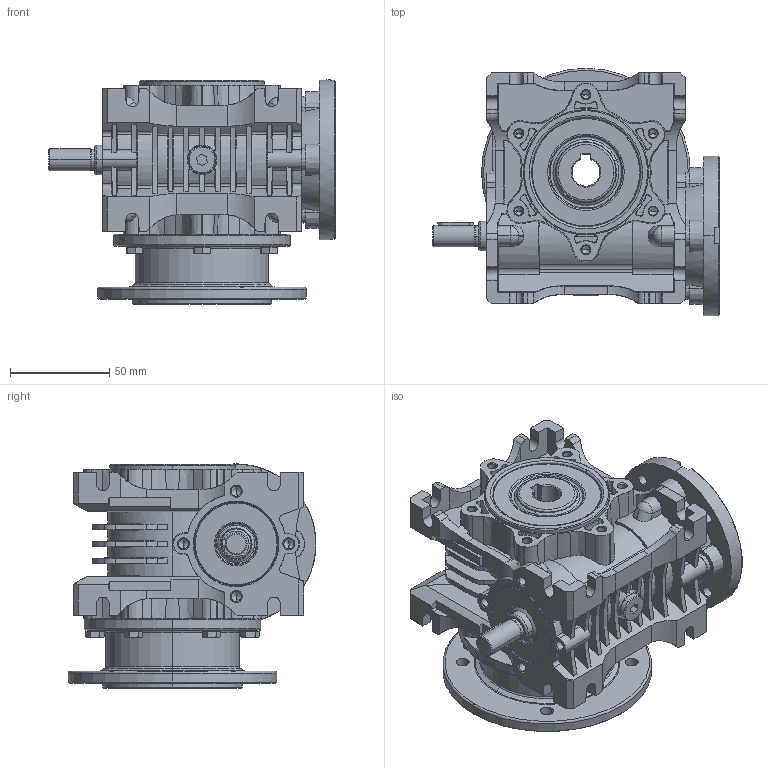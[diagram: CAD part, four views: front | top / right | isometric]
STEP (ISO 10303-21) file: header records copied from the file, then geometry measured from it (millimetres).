
FILE_DESCRIPTION (( 'STEP AP203' ), '1' );
FILE_NAME ('MR-32_80-9-WBS-K105_1-3D.STEP', '2022-01-25T16:55:11', ( '' ), ( '' ), 'SwSTEP 2.0', 'SolidWorks 2022', '' );
FILE_SCHEMA (( 'CONFIG_CONTROL_DESIGN' ));
Products named in the file (1): MR-32_80-9-WBS-K105_1-3D
Bounding box: 144 x 124.61 x 112.71 mm (x, y, z)
Volume: 624563.1 mm3; surface area: 146098.8 mm2
Topology: 1 solids, 34 shells, 1941 faces, 5074 edges, 3231 vertices
Faces by surface type: plane 763, cone 582, cylinder 355, bspline 163, torus 72, sphere 6
Entity records: 66982 total; most frequent: CARTESIAN_POINT 21513, ORIENTED_EDGE 10040, DIRECTION 8910, EDGE_CURVE 5020, AXIS2_PLACEMENT_3D 3352, VERTEX_POINT 3231, LINE 2206, VECTOR 2206
